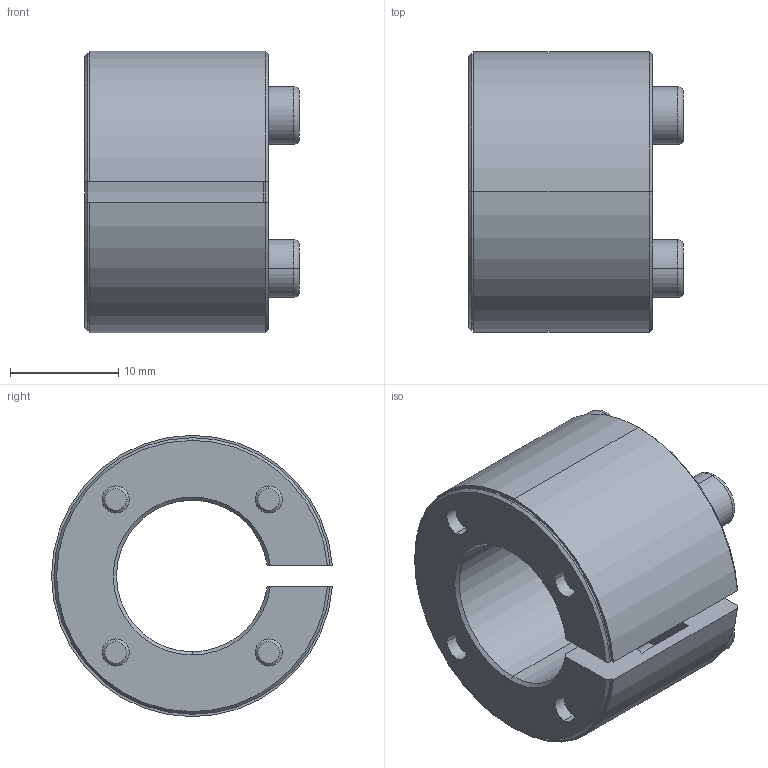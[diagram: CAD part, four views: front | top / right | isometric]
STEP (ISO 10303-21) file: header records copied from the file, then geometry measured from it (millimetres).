
FILE_DESCRIPTION (( 'STEP AP214' ), '1' );
FILE_NAME ('SAPL-E-14X26.STEP', '2024-07-12T02:03:38', ( '决扁浅何厘' ), ( '' ), 'SwSTEP 2.0', 'SolidWorks 2024', '' );
FILE_SCHEMA (( 'AUTOMOTIVE_DESIGN' ));
Length unit declared in the file: millimetre
Products named in the file (1): SAPL-E-14X26
Bounding box: 19.84 x 25.96 x 26 mm (x, y, z)
Volume: 5158.9 mm3; surface area: 5061.8 mm2
Topology: 1 solids, 1 shells, 143 faces, 357 edges, 228 vertices
Faces by surface type: plane 52, cylinder 48, cone 35, torus 8
Entity records: 4385 total; most frequent: DIRECTION 802, CARTESIAN_POINT 795, ORIENTED_EDGE 714, EDGE_CURVE 357, AXIS2_PLACEMENT_3D 321, VERTEX_POINT 228, CIRCLE 177, EDGE_LOOP 169
